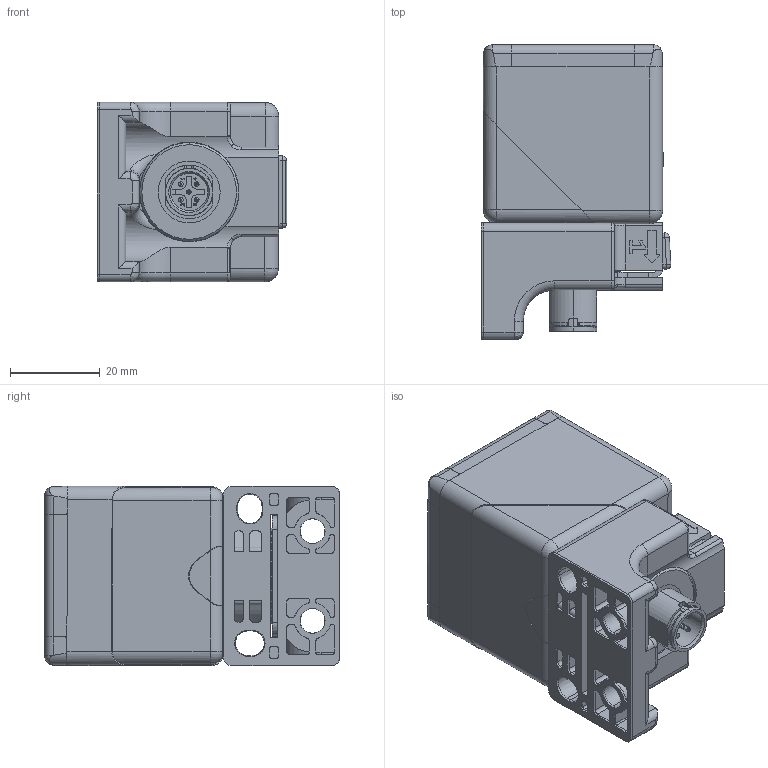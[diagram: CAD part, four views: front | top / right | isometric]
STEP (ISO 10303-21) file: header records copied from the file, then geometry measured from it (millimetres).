
FILE_DESCRIPTION (( 'STEP AP203' ), '1' );
FILE_NAME ('vxv-35.STEP', '2022-03-09T15:23:27', ( '' ), ( '' ), 'SwSTEP 2.0', 'SolidWorks 2021', '' );
FILE_SCHEMA (( 'CONFIG_CONTROL_DESIGN' ));
Length unit declared in the file: millimetre
Products named in the file (4): vxv-35; Steckergehaeuse; Montagehalterung; 400 kHz USW+Elektronikgehaeuse
Assembly tree (3 placements, depth 2):
  vxv-35
    Montagehalterung
    Steckergehaeuse
    400 kHz USW+Elektronikgehaeuse
Bounding box: 42.26 x 65.81 x 40.13 mm (x, y, z)
Volume: 82491.8 mm3; surface area: 25902.4 mm2
Topology: 3 solids, 3 shells, 1004 faces, 2575 edges, 1618 vertices
Faces by surface type: plane 471, cylinder 295, cone 135, bspline 69, torus 22, sphere 12
Entity records: 37917 total; most frequent: CARTESIAN_POINT 13468, ORIENTED_EDGE 5142, DIRECTION 4879, EDGE_CURVE 2571, AXIS2_PLACEMENT_3D 1662, VERTEX_POINT 1618, VECTOR 1555, LINE 1555
